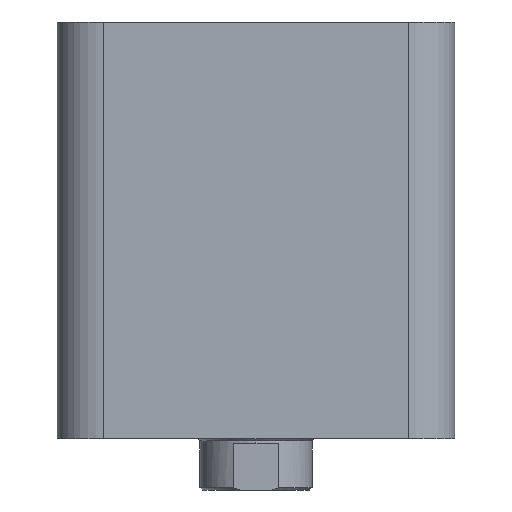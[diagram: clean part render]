
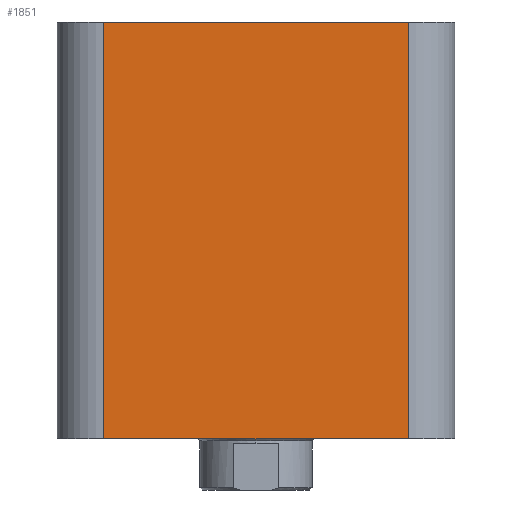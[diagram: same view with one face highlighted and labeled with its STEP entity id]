
A CAD part, left-side view. The second image highlights one B-rep face of the part: STEP entity #1851.
In plain terms, the highlighted planar face has unit normal (-1, 0, 0).
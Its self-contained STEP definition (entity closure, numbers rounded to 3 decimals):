
#303 = VECTOR ( 'NONE', #884, 1000. ) ;
#884 = DIRECTION ( 'NONE',  ( 0., -1., 0. ) ) ;
#1115 = CARTESIAN_POINT ( 'NONE',  ( 0., 10., 0. ) ) ;
#1851 = ADVANCED_FACE ( 'NONE', ( #2511 ), #10785, .F. ) ;
#2511 = FACE_OUTER_BOUND ( 'NONE', #25588, .T. ) ;
#3045 = DIRECTION ( 'NONE',  ( 1., 0., 0. ) ) ;
#5729 = VERTEX_POINT ( 'NONE', #20871 ) ;
#6399 = LINE ( 'NONE', #15082, #6688 ) ;
#6688 = VECTOR ( 'NONE', #21305, 1000. ) ;
#7113 = LINE ( 'NONE', #9292, #303 ) ;
#8502 = EDGE_CURVE ( 'NONE', #9065, #15372, #7113, .T. ) ;
#9065 = VERTEX_POINT ( 'NONE', #10163 ) ;
#9292 = CARTESIAN_POINT ( 'NONE',  ( 0., 0., 0. ) ) ;
#9406 = ORIENTED_EDGE ( 'NONE', *, *, #26389, .F. ) ;
#9816 = LINE ( 'NONE', #15525, #21110 ) ;
#10092 = LINE ( 'NONE', #20391, #19780 ) ;
#10163 = CARTESIAN_POINT ( 'NONE',  ( 0., 75., 0. ) ) ;
#10176 = EDGE_CURVE ( 'NONE', #15372, #5729, #9816, .T. ) ;
#10536 = ORIENTED_EDGE ( 'NONE', *, *, #8502, .T. ) ;
#10785 = PLANE ( 'NONE',  #17080 ) ;
#11157 = CARTESIAN_POINT ( 'NONE',  ( 0., 75., 89. ) ) ;
#11582 = DIRECTION ( 'NONE',  ( 0., 0., -1. ) ) ;
#11768 = EDGE_CURVE ( 'NONE', #14254, #9065, #10092, .T. ) ;
#11770 = ORIENTED_EDGE ( 'NONE', *, *, #10176, .T. ) ;
#14254 = VERTEX_POINT ( 'NONE', #11157 ) ;
#15082 = CARTESIAN_POINT ( 'NONE',  ( 0., 0., 89. ) ) ;
#15372 = VERTEX_POINT ( 'NONE', #1115 ) ;
#15430 = DIRECTION ( 'NONE',  ( 0., 0., -1. ) ) ;
#15525 = CARTESIAN_POINT ( 'NONE',  ( 0., 10., 89. ) ) ;
#17080 = AXIS2_PLACEMENT_3D ( 'NONE', #19039, #3045, #11582 ) ;
#19039 = CARTESIAN_POINT ( 'NONE',  ( 0., 0., 89. ) ) ;
#19780 = VECTOR ( 'NONE', #15430, 1000. ) ;
#20244 = DIRECTION ( 'NONE',  ( 0., 0., 1. ) ) ;
#20391 = CARTESIAN_POINT ( 'NONE',  ( 0., 75., 89. ) ) ;
#20871 = CARTESIAN_POINT ( 'NONE',  ( 0., 10., 89. ) ) ;
#21110 = VECTOR ( 'NONE', #20244, 1000. ) ;
#21271 = ORIENTED_EDGE ( 'NONE', *, *, #11768, .T. ) ;
#21305 = DIRECTION ( 'NONE',  ( 0., -1., 0. ) ) ;
#25588 = EDGE_LOOP ( 'NONE', ( #10536, #11770, #9406, #21271 ) ) ;
#26389 = EDGE_CURVE ( 'NONE', #14254, #5729, #6399, .T. ) ;
